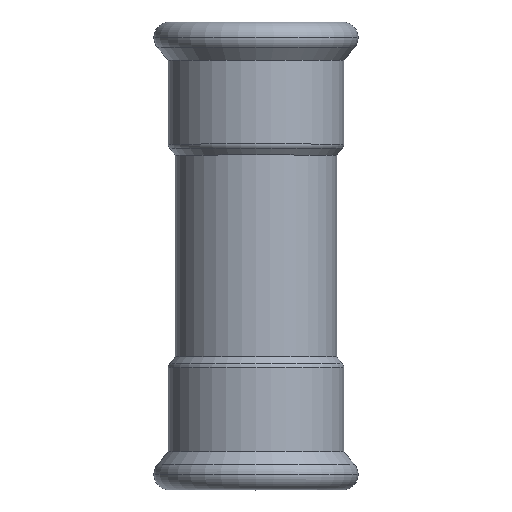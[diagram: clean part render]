
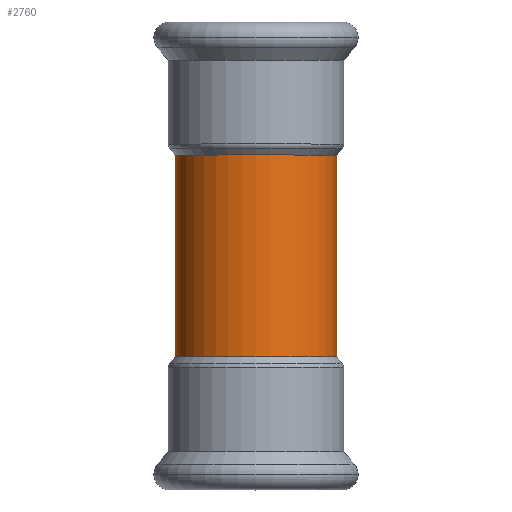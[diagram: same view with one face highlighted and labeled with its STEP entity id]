
A CAD part, top view. The second image highlights one B-rep face of the part: STEP entity #2760.
In plain terms, the highlighted cylindrical face has radius 17.594 mm (diameter 35.189 mm), a partial arc.
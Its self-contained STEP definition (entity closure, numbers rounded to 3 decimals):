
#2350=CARTESIAN_POINT('',(-319.291,9.935,
-22.));
#2360=DIRECTION('',(0.,0.,-1.));
#2370=DIRECTION('',(-1.,0.,0.));
#2380=AXIS2_PLACEMENT_3D('',#2350,#2360,#2370);
#2390=CYLINDRICAL_SURFACE('',#2380,17.594);
#2400=CARTESIAN_POINT('',(-301.697,9.935,
-22.));
#2410=DIRECTION('',(0.,0.,-1.));
#2420=VECTOR('',#2410,1.);
#2430=LINE('',#2400,#2420);
#2440=CARTESIAN_POINT('',(-301.697,9.935,
22.));
#2450=VERTEX_POINT('',#2440);
#2460=CARTESIAN_POINT('',(-301.697,9.935,
-22.));
#2470=VERTEX_POINT('',#2460);
#2480=EDGE_CURVE('',#2450,#2470,#2430,.T.);
#2490=ORIENTED_EDGE('',*,*,#2480,.F.);
#2500=CARTESIAN_POINT('',(-319.291,9.935,
-22.));
#2510=DIRECTION('',(0.,0.,-1.));
#2520=DIRECTION('',(-1.,0.,0.));
#2530=AXIS2_PLACEMENT_3D('',#2500,#2510,#2520);
#2540=CIRCLE('',#2530,17.594);
#2550=CARTESIAN_POINT('',(-336.885,9.935,
-22.));
#2560=VERTEX_POINT('',#2550);
#2570=EDGE_CURVE('',#2470,#2560,#2540,.T.);
#2580=ORIENTED_EDGE('',*,*,#2570,.F.);
#2590=CARTESIAN_POINT('',(-336.885,9.935,
-22.));
#2600=DIRECTION('',(0.,0.,-1.));
#2610=VECTOR('',#2600,1.);
#2620=LINE('',#2590,#2610);
#2630=CARTESIAN_POINT('',(-336.885,9.935,
22.));
#2640=VERTEX_POINT('',#2630);
#2650=EDGE_CURVE('',#2640,#2560,#2620,.T.);
#2660=ORIENTED_EDGE('',*,*,#2650,.T.);
#2670=CARTESIAN_POINT('',(-319.291,9.935,
22.));
#2680=DIRECTION('',(0.,0.,1.));
#2690=DIRECTION('',(1.,0.,0.));
#2700=AXIS2_PLACEMENT_3D('',#2670,#2680,#2690);
#2710=CIRCLE('',#2700,17.594);
#2720=EDGE_CURVE('',#2640,#2450,#2710,.T.);
#2730=ORIENTED_EDGE('',*,*,#2720,.F.);
#2740=EDGE_LOOP('',(#2730,#2660,#2580,#2490));
#2750=FACE_OUTER_BOUND('',#2740,.T.);
#2760=ADVANCED_FACE('',(#2750),#2390,.T.);
